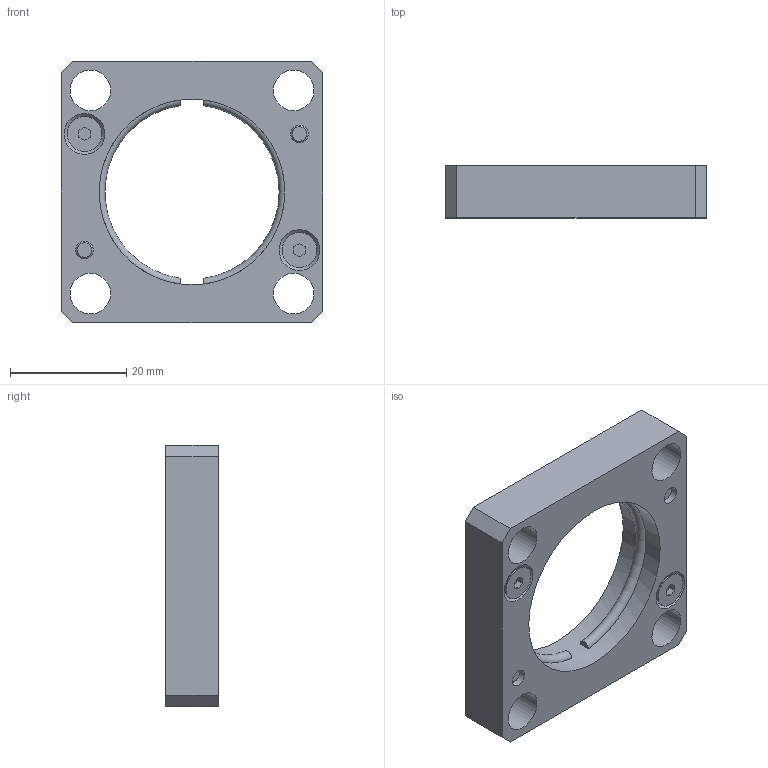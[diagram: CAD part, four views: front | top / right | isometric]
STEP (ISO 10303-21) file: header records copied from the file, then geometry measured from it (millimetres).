
FILE_DESCRIPTION(/* description */ (''),/* implementation_level */ '2;1');
FILE_NAME(/* name */ 'C:\Users\Jefferson\Desktop\Biblioteca Pro Nitro 2024 - Inventor\Flanges\PNB-65-XXX\PNB-65-032.stp',/* time_stamp */ '2024-12-30T12:13:59-03:00',/* author */ ('Jefferson'),/* organization */ (''),/* preprocessor_version */ 'ST-DEVELOPER v19',/* originating_system */ 'Autodesk Inventor 2023',/* authorisation */ '');
FILE_SCHEMA (('AUTOMOTIVE_DESIGN { 1 0 10303 214 3 1 1 }'));
Length unit declared in the file: millimetre
Products named in the file (3): PNB-65-032; DNB-0016-032; DIN 7991 - M3x8
Assembly tree (5 placements, depth 2):
  PNB-65-032
    DNB-0016-032
    DIN 7991 - M3x8  x4
Bounding box: 45 x 9 x 45 mm (x, y, z)
Volume: 9587.5 mm3; surface area: 6302.2 mm2
Topology: 5 solids, 5 shells, 255 faces, 669 edges, 444 vertices
Faces by surface type: plane 124, bspline 96, cylinder 17, cone 12, torus 6
Full cylindrical faces by diameter (mm): 3 x8, 6 x4, 7 x4, 32 x1
Entity records: 7402 total; most frequent: CARTESIAN_POINT 2492, ORIENTED_EDGE 1146, DIRECTION 669, EDGE_CURVE 573, VERTEX_POINT 381, LINE 337, VECTOR 337, EDGE_LOOP 248
